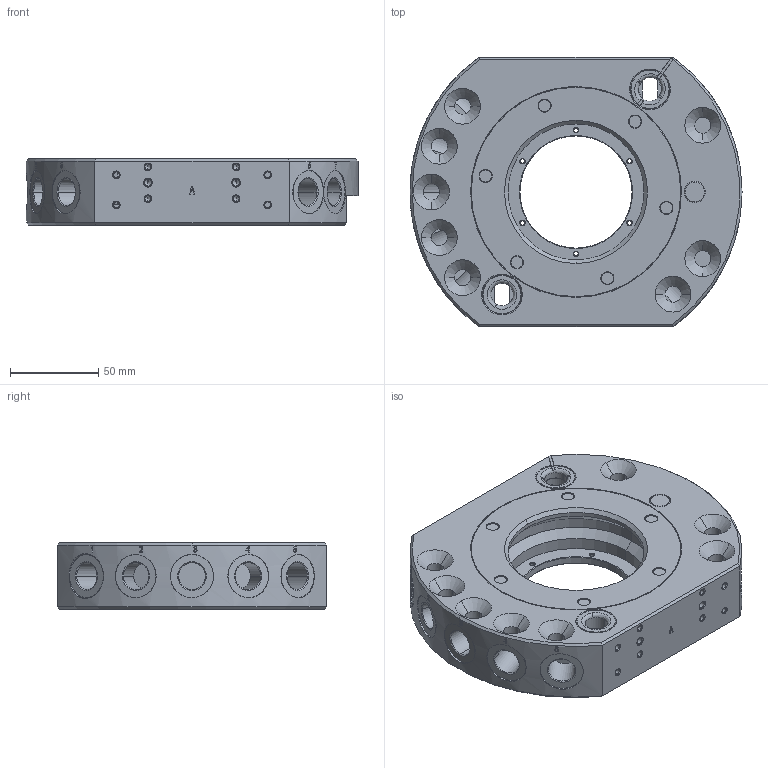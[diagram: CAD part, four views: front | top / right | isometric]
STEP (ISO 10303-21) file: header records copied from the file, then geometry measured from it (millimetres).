
FILE_DESCRIPTION (( 'STEP AP203' ), '1' );
FILE_NAME ('QCA-S150G.STEP', '2024-03-20T01:13:36', ( '微软用户' ), ( '微软中国' ), 'SwSTEP 2.0', 'SolidWorks 2018', '' );
FILE_SCHEMA (( 'CONFIG_CONTROL_DESIGN' ));
Length unit declared in the file: millimetre
Products named in the file (1): QCA-S150G
Bounding box: 188 x 152.4 x 37.5 mm (x, y, z)
Volume: 648008.6 mm3; surface area: 106613.7 mm2
Topology: 1 solids, 11 shells, 876 faces, 2097 edges, 1272 vertices
Faces by surface type: plane 291, cone 268, cylinder 262, bspline 55
Entity records: 31984 total; most frequent: CARTESIAN_POINT 11641, DIRECTION 4376, ORIENTED_EDGE 4082, EDGE_CURVE 2041, AXIS2_PLACEMENT_3D 1694, VERTEX_POINT 1272, EDGE_LOOP 1019, LINE 988
